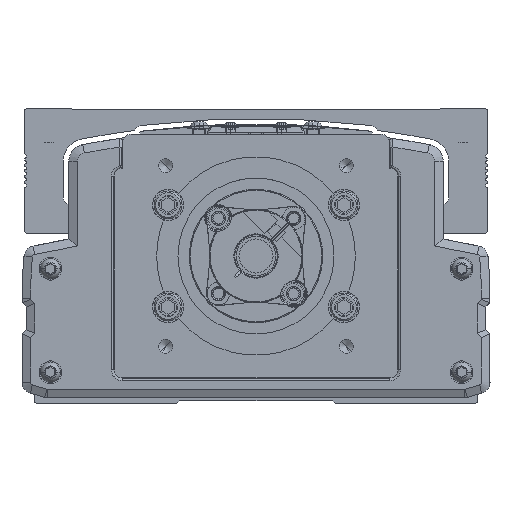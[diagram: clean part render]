
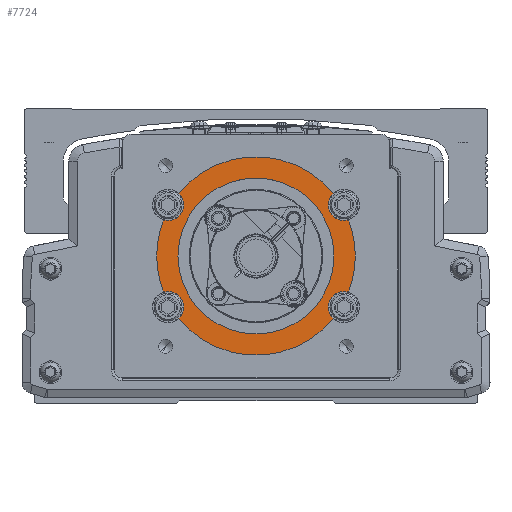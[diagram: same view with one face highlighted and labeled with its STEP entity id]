
A CAD part, front view. The second image highlights one B-rep face of the part: STEP entity #7724.
In plain terms, the highlighted planar face has unit normal (0, -1, 0).
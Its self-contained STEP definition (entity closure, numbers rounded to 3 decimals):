
#7724=ADVANCED_FACE('',(#16567,#16568),#16569,.F.);
#16567=FACE_OUTER_BOUND('',#28477,.T.);
#16568=FACE_BOUND('',#28478,.T.);
#16569=PLANE('',#28479);
#28477=EDGE_LOOP('',(#51485,#51486,#51487,#51488,#51489,#51490,#51491,#51492,#51493,#51494,#51495,#51496,#51497,#51498));
#28478=EDGE_LOOP('',(#51499,#51500));
#28479=AXIS2_PLACEMENT_3D('',#51501,#51502,#51503);
#51485=ORIENTED_EDGE('',*,*,#72158,.F.);
#51486=ORIENTED_EDGE('',*,*,#68079,.T.);
#51487=ORIENTED_EDGE('',*,*,#64939,.T.);
#51488=ORIENTED_EDGE('',*,*,#66575,.F.);
#51489=ORIENTED_EDGE('',*,*,#64757,.F.);
#51490=ORIENTED_EDGE('',*,*,#72159,.T.);
#51491=ORIENTED_EDGE('',*,*,#66361,.F.);
#51492=ORIENTED_EDGE('',*,*,#65579,.F.);
#51493=ORIENTED_EDGE('',*,*,#71610,.T.);
#51494=ORIENTED_EDGE('',*,*,#72160,.T.);
#51495=ORIENTED_EDGE('',*,*,#66425,.F.);
#51496=ORIENTED_EDGE('',*,*,#65099,.F.);
#51497=ORIENTED_EDGE('',*,*,#72161,.T.);
#51498=ORIENTED_EDGE('',*,*,#72162,.F.);
#51499=ORIENTED_EDGE('',*,*,#72163,.F.);
#51500=ORIENTED_EDGE('',*,*,#64036,.F.);
#51501=CARTESIAN_POINT('',(-600.,-496.778,0.));
#51502=DIRECTION('',(0.,1.0,0.));
#51503=DIRECTION('',(-1.0,0.,0.));
#64036=EDGE_CURVE('',#76205,#76207,#76208,.T.);
#64757=EDGE_CURVE('',#77485,#77487,#77488,.T.);
#64939=EDGE_CURVE('',#77802,#77807,#77809,.T.);
#65099=EDGE_CURVE('',#78082,#78084,#78085,.T.);
#65579=EDGE_CURVE('',#78921,#78923,#78924,.T.);
#66361=EDGE_CURVE('',#78923,#80216,#80217,.T.);
#66425=EDGE_CURVE('',#78084,#80321,#80322,.T.);
#66575=EDGE_CURVE('',#77487,#77807,#80558,.T.);
#68079=EDGE_CURVE('',#82972,#77802,#82973,.T.);
#71610=EDGE_CURVE('',#78921,#88085,#88087,.T.);
#72158=EDGE_CURVE('',#82972,#88790,#88791,.T.);
#72159=EDGE_CURVE('',#77485,#80216,#88792,.T.);
#72160=EDGE_CURVE('',#88085,#80321,#88793,.T.);
#72161=EDGE_CURVE('',#78082,#88794,#88795,.T.);
#72162=EDGE_CURVE('',#88790,#88794,#88796,.T.);
#72163=EDGE_CURVE('',#76207,#76205,#88797,.T.);
#76205=VERTEX_POINT('',#93872);
#76207=VERTEX_POINT('',#93875);
#76208=CIRCLE('',#93876,27.5);
#77485=VERTEX_POINT('',#95727);
#77487=VERTEX_POINT('',#95730);
#77488=CIRCLE('',#95731,5.5);
#77802=VERTEX_POINT('',#96144);
#77807=VERTEX_POINT('',#96150);
#77809=CIRCLE('',#96153,35.0);
#78082=VERTEX_POINT('',#96508);
#78084=VERTEX_POINT('',#96511);
#78085=CIRCLE('',#96512,5.5);
#78921=VERTEX_POINT('',#97994);
#78923=VERTEX_POINT('',#97997);
#78924=CIRCLE('',#97998,5.5);
#80216=VERTEX_POINT('',#99845);
#80217=CIRCLE('',#99846,5.5);
#80321=VERTEX_POINT('',#100012);
#80322=CIRCLE('',#100013,5.5);
#80558=CIRCLE('',#100345,5.5);
#82972=VERTEX_POINT('',#103821);
#82973=CIRCLE('',#103822,35.0);
#88085=VERTEX_POINT('',#111563);
#88087=CIRCLE('',#111566,35.0);
#88790=VERTEX_POINT('',#112583);
#88791=CIRCLE('',#112584,5.5);
#88792=CIRCLE('',#112585,35.0);
#88793=CIRCLE('',#112586,35.0);
#88794=VERTEX_POINT('',#112587);
#88795=CIRCLE('',#112588,35.0);
#88796=CIRCLE('',#112589,5.5);
#88797=CIRCLE('',#112590,27.5);
#93872=CARTESIAN_POINT('',(-627.5,-496.778,0.));
#93875=CARTESIAN_POINT('',(-572.5,-496.778,0.));
#93876=AXIS2_PLACEMENT_3D('',#117854,#117855,#117856);
#95727=CARTESIAN_POINT('',(-627.223,-496.778,-21.998));
#95730=CARTESIAN_POINT('',(-625.5,-496.778,-18.));
#95731=AXIS2_PLACEMENT_3D('',#118926,#118927,#118928);
#96144=CARTESIAN_POINT('',(-635.,-496.778,0.));
#96150=CARTESIAN_POINT('',(-632.6,-496.778,-12.738));
#96153=AXIS2_PLACEMENT_3D('',#119175,#119176,#119177);
#96508=CARTESIAN_POINT('',(-572.777,-496.778,21.998));
#96511=CARTESIAN_POINT('',(-574.5,-496.778,18.));
#96512=AXIS2_PLACEMENT_3D('',#119387,#119388,#119389);
#97994=CARTESIAN_POINT('',(-567.4,-496.778,-12.738));
#97997=CARTESIAN_POINT('',(-574.5,-496.778,-18.));
#97998=AXIS2_PLACEMENT_3D('',#120017,#120018,#120019);
#99845=CARTESIAN_POINT('',(-572.777,-496.778,-21.998));
#99846=AXIS2_PLACEMENT_3D('',#121217,#121218,#121219);
#100012=CARTESIAN_POINT('',(-567.4,-496.778,12.738));
#100013=AXIS2_PLACEMENT_3D('',#121289,#121290,#121291);
#100345=AXIS2_PLACEMENT_3D('',#121487,#121488,#121489);
#103821=CARTESIAN_POINT('',(-632.6,-496.778,12.738));
#103822=AXIS2_PLACEMENT_3D('',#123547,#123548,#123549);
#111563=CARTESIAN_POINT('',(-565.,-496.778,0.));
#111566=AXIS2_PLACEMENT_3D('',#128104,#128105,#128106);
#112583=CARTESIAN_POINT('',(-625.5,-496.778,18.));
#112584=AXIS2_PLACEMENT_3D('',#128772,#128773,#128774);
#112585=AXIS2_PLACEMENT_3D('',#128775,#128776,#128777);
#112586=AXIS2_PLACEMENT_3D('',#128778,#128779,#128780);
#112587=CARTESIAN_POINT('',(-627.223,-496.778,21.998));
#112588=AXIS2_PLACEMENT_3D('',#128781,#128782,#128783);
#112589=AXIS2_PLACEMENT_3D('',#128784,#128785,#128786);
#112590=AXIS2_PLACEMENT_3D('',#128787,#128788,#128789);
#117854=CARTESIAN_POINT('',(-600.,-496.778,0.));
#117855=DIRECTION('',(0.,-1.0,0.));
#117856=DIRECTION('',(-1.0,0.,0.));
#118926=CARTESIAN_POINT('',(-631.,-496.778,-18.));
#118927=DIRECTION('',(0.,-1.0,0.));
#118928=DIRECTION('',(-1.0,0.,0.));
#119175=CARTESIAN_POINT('',(-600.,-496.778,0.));
#119176=DIRECTION('',(0.,-1.0,0.));
#119177=DIRECTION('',(-1.0,0.,0.));
#119387=CARTESIAN_POINT('',(-569.,-496.778,18.));
#119388=DIRECTION('',(0.,-1.0,0.));
#119389=DIRECTION('',(1.0,0.,0.));
#120017=CARTESIAN_POINT('',(-569.,-496.778,-18.));
#120018=DIRECTION('',(0.,-1.0,0.));
#120019=DIRECTION('',(1.0,0.,0.));
#121217=CARTESIAN_POINT('',(-569.,-496.778,-18.));
#121218=DIRECTION('',(0.,-1.0,0.));
#121219=DIRECTION('',(1.0,0.,0.));
#121289=CARTESIAN_POINT('',(-569.,-496.778,18.));
#121290=DIRECTION('',(0.,-1.0,0.));
#121291=DIRECTION('',(1.0,0.,0.));
#121487=CARTESIAN_POINT('',(-631.,-496.778,-18.));
#121488=DIRECTION('',(0.,-1.0,0.));
#121489=DIRECTION('',(-1.0,0.,0.));
#123547=CARTESIAN_POINT('',(-600.,-496.778,0.));
#123548=DIRECTION('',(0.,-1.0,0.));
#123549=DIRECTION('',(-1.0,0.,0.));
#128104=CARTESIAN_POINT('',(-600.,-496.778,0.));
#128105=DIRECTION('',(0.,-1.0,0.));
#128106=DIRECTION('',(-1.0,0.,0.));
#128772=CARTESIAN_POINT('',(-631.,-496.778,18.));
#128773=DIRECTION('',(0.,-1.0,0.));
#128774=DIRECTION('',(-1.0,0.,0.));
#128775=CARTESIAN_POINT('',(-600.,-496.778,0.));
#128776=DIRECTION('',(0.,-1.0,0.));
#128777=DIRECTION('',(-1.0,0.,0.));
#128778=CARTESIAN_POINT('',(-600.,-496.778,0.));
#128779=DIRECTION('',(0.,-1.0,0.));
#128780=DIRECTION('',(-1.0,0.,0.));
#128781=CARTESIAN_POINT('',(-600.,-496.778,0.));
#128782=DIRECTION('',(0.,-1.0,0.));
#128783=DIRECTION('',(-1.0,0.,0.));
#128784=CARTESIAN_POINT('',(-631.,-496.778,18.));
#128785=DIRECTION('',(0.,-1.0,0.));
#128786=DIRECTION('',(-1.0,0.,0.));
#128787=CARTESIAN_POINT('',(-600.,-496.778,0.));
#128788=DIRECTION('',(0.,-1.0,0.));
#128789=DIRECTION('',(-1.0,0.,0.));
